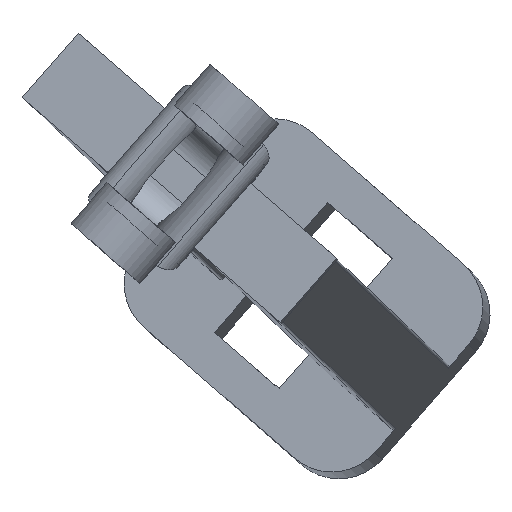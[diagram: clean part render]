
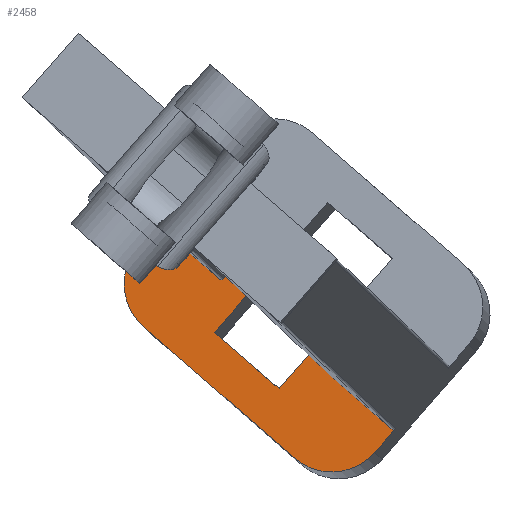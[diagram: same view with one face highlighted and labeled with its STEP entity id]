
A CAD part, top view. The second image highlights one B-rep face of the part: STEP entity #2458.
In plain terms, the highlighted planar face has unit normal (-0.036, 0.033, 0.999).
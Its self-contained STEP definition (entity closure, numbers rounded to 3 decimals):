
#14 = EDGE_CURVE ( 'NONE', #1218, #1404, #3377, .T. ) ;
#35 = ORIENTED_EDGE ( 'NONE', *, *, #588, .F. ) ;
#49 = LINE ( 'NONE', #1005, #1659 ) ;
#70 = EDGE_CURVE ( 'NONE', #3530, #2964, #2919, .T. ) ;
#84 = CARTESIAN_POINT ( 'NONE',  ( -79.305, 5.163, -659.587 ) ) ;
#112 = CARTESIAN_POINT ( 'NONE',  ( -38.999, -9.393, -657.648 ) ) ;
#115 = CARTESIAN_POINT ( 'NONE',  ( -48.085, -12.22, -657.885 ) ) ;
#128 = CARTESIAN_POINT ( 'NONE',  ( -52.419, 5.614, -658.625 ) ) ;
#212 = VERTEX_POINT ( 'NONE', #3600 ) ;
#220 = VECTOR ( 'NONE', #1322, 1000. ) ;
#251 = VERTEX_POINT ( 'NONE', #1214 ) ;
#268 = FACE_OUTER_BOUND ( 'NONE', #3099, .T. ) ;
#269 = EDGE_CURVE ( 'NONE', #3386, #1597, #1631, .T. ) ;
#289 = LINE ( 'NONE', #1499, #3160 ) ;
#303 = VECTOR ( 'NONE', #3076, 1000. ) ;
#312 = PLANE ( 'NONE',  #1201 ) ;
#334 = CARTESIAN_POINT ( 'NONE',  ( -45.415, -24.36, -657.392 ) ) ;
#348 = CARTESIAN_POINT ( 'NONE',  ( -38.846, -16.82, -657.4 ) ) ;
#371 = CARTESIAN_POINT ( 'NONE',  ( -28.031, -19.611, -656.916 ) ) ;
#386 = DIRECTION ( 'NONE',  ( 0.967, -0.251, 0.043 ) ) ;
#426 = VECTOR ( 'NONE', #1586, 1000. ) ;
#522 = CARTESIAN_POINT ( 'NONE',  ( -68.747, 16.522, -659.574 ) ) ;
#588 = EDGE_CURVE ( 'NONE', #251, #1106, #289, .T. ) ;
#593 = CARTESIAN_POINT ( 'NONE',  ( -56.185, 8.894, -658.869 ) ) ;
#600 = AXIS2_PLACEMENT_3D ( 'NONE', #2640, #2958, #1660 ) ;
#677 = LINE ( 'NONE', #115, #692 ) ;
#680 = VERTEX_POINT ( 'NONE', #2614 ) ;
#692 = VECTOR ( 'NONE', #3395, 1000. ) ;
#706 = VERTEX_POINT ( 'NONE', #2577 ) ;
#739 = EDGE_CURVE ( 'NONE', #706, #3795, #3176, .T. ) ;
#766 = DIRECTION ( 'NONE',  ( -0.657, -0.754, 0.001 ) ) ;
#769 = DIRECTION ( 'NONE',  ( 0.967, -0.251, 0.043 ) ) ;
#838 = VERTEX_POINT ( 'NONE', #3406 ) ;
#974 = DIRECTION ( 'NONE',  ( 0.036, -0.033, -0.999 ) ) ;
#998 = DIRECTION ( 'NONE',  ( -0.657, -0.754, 0.001 ) ) ;
#1005 = CARTESIAN_POINT ( 'NONE',  ( -48.631, 17.565, -658.877 ) ) ;
#1009 = DIRECTION ( 'NONE',  ( 0.967, -0.251, 0.043 ) ) ;
#1026 = ORIENTED_EDGE ( 'NONE', *, *, #2682, .T. ) ;
#1040 = VERTEX_POINT ( 'NONE', #3656 ) ;
#1053 = LINE ( 'NONE', #1584, #2036 ) ;
#1059 = VERTEX_POINT ( 'NONE', #334 ) ;
#1081 = ORIENTED_EDGE ( 'NONE', *, *, #70, .T. ) ;
#1106 = VERTEX_POINT ( 'NONE', #2380 ) ;
#1109 = DIRECTION ( 'NONE',  ( 0.036, -0.033, -0.999 ) ) ;
#1147 = EDGE_CURVE ( 'NONE', #1059, #2122, #2872, .T. ) ;
#1155 = EDGE_CURVE ( 'NONE', #1404, #3882, #677, .T. ) ;
#1170 = VECTOR ( 'NONE', #766, 1000. ) ;
#1183 = DIRECTION ( 'NONE',  ( -0.657, -0.754, 0.001 ) ) ;
#1201 = AXIS2_PLACEMENT_3D ( 'NONE', #3038, #3293, #1183 ) ;
#1214 = CARTESIAN_POINT ( 'NONE',  ( -72.737, 12.703, -659.594 ) ) ;
#1218 = VERTEX_POINT ( 'NONE', #1905 ) ;
#1256 = CARTESIAN_POINT ( 'NONE',  ( -38.999, -9.393, -657.648 ) ) ;
#1287 = DIRECTION ( 'NONE',  ( 0.753, -0.656, 0.049 ) ) ;
#1322 = DIRECTION ( 'NONE',  ( 0.657, 0.754, -0.001 ) ) ;
#1368 = DIRECTION ( 'NONE',  ( -0.753, 0.656, -0.049 ) ) ;
#1392 = LINE ( 'NONE', #128, #1170 ) ;
#1404 = VERTEX_POINT ( 'NONE', #3632 ) ;
#1499 = CARTESIAN_POINT ( 'NONE',  ( -59.599, 27.783, -659.609 ) ) ;
#1545 = ORIENTED_EDGE ( 'NONE', *, *, #14, .F. ) ;
#1584 = CARTESIAN_POINT ( 'NONE',  ( -28.407, -19.283, -656.94 ) ) ;
#1586 = DIRECTION ( 'NONE',  ( 0.753, -0.656, 0.049 ) ) ;
#1597 = VERTEX_POINT ( 'NONE', #3568 ) ;
#1631 = LINE ( 'NONE', #371, #2864 ) ;
#1652 = CARTESIAN_POINT ( 'NONE',  ( -27.702, -19.234, -656.916 ) ) ;
#1659 = VECTOR ( 'NONE', #2474, 1000. ) ;
#1660 = DIRECTION ( 'NONE',  ( 0.967, -0.251, 0.043 ) ) ;
#1673 = ORIENTED_EDGE ( 'NONE', *, *, #3022, .F. ) ;
#1733 = CARTESIAN_POINT ( 'NONE',  ( -38.622, -9.721, -657.623 ) ) ;
#1791 = DIRECTION ( 'NONE',  ( 0.967, -0.251, 0.043 ) ) ;
#1803 = ORIENTED_EDGE ( 'NONE', *, *, #2978, .T. ) ;
#1809 = DIRECTION ( 'NONE',  ( 0.657, 0.754, -0.001 ) ) ;
#1826 = AXIS2_PLACEMENT_3D ( 'NONE', #348, #2722, #1791 ) ;
#1881 = CARTESIAN_POINT ( 'NONE',  ( -59.382, -2.379, -658.617 ) ) ;
#1893 = DIRECTION ( 'NONE',  ( -0.036, 0.033, 0.999 ) ) ;
#1905 = CARTESIAN_POINT ( 'NONE',  ( -59.382, -2.379, -658.617 ) ) ;
#1930 = CIRCLE ( 'NONE', #2949, 0.5 ) ;
#1976 = ORIENTED_EDGE ( 'NONE', *, *, #2586, .T. ) ;
#2009 = VECTOR ( 'NONE', #1287, 1000. ) ;
#2036 = VECTOR ( 'NONE', #2240, 1000. ) ;
#2119 = CARTESIAN_POINT ( 'NONE',  ( -71.774, -1.397, -659.099 ) ) ;
#2122 = VERTEX_POINT ( 'NONE', #2119 ) ;
#2125 = AXIS2_PLACEMENT_3D ( 'NONE', #3108, #1893, #386 ) ;
#2165 = CARTESIAN_POINT ( 'NONE',  ( -41.122, -4.227, -657.893 ) ) ;
#2199 = CARTESIAN_POINT ( 'NONE',  ( -56.185, 8.894, -658.869 ) ) ;
#2220 = ORIENTED_EDGE ( 'NONE', *, *, #3226, .T. ) ;
#2240 = DIRECTION ( 'NONE',  ( -0.753, 0.656, -0.049 ) ) ;
#2272 = EDGE_CURVE ( 'NONE', #3882, #1040, #3376, .T. ) ;
#2293 = DIRECTION ( 'NONE',  ( 0.967, -0.251, 0.043 ) ) ;
#2321 = CIRCLE ( 'NONE', #600, 0.5 ) ;
#2347 = CIRCLE ( 'NONE', #1826, 10. ) ;
#2374 = EDGE_CURVE ( 'NONE', #838, #3530, #1053, .T. ) ;
#2380 = CARTESIAN_POINT ( 'NONE',  ( -69.124, 16.85, -659.598 ) ) ;
#2435 = ORIENTED_EDGE ( 'NONE', *, *, #1147, .F. ) ;
#2457 = EDGE_CURVE ( 'NONE', #1059, #1597, #2347, .T. ) ;
#2458 = ADVANCED_FACE ( 'NONE', ( #268 ), #312, .F. ) ;
#2474 = DIRECTION ( 'NONE',  ( -0.657, -0.754, 0.001 ) ) ;
#2523 = ORIENTED_EDGE ( 'NONE', *, *, #2272, .F. ) ;
#2530 = ORIENTED_EDGE ( 'NONE', *, *, #2457, .T. ) ;
#2577 = CARTESIAN_POINT ( 'NONE',  ( -58.532, 6.96, -658.891 ) ) ;
#2586 = EDGE_CURVE ( 'NONE', #2964, #1040, #3122, .T. ) ;
#2614 = CARTESIAN_POINT ( 'NONE',  ( -57.827, 7.009, -658.867 ) ) ;
#2640 = CARTESIAN_POINT ( 'NONE',  ( -28.079, -18.906, -656.941 ) ) ;
#2682 = EDGE_CURVE ( 'NONE', #3386, #838, #2321, .T. ) ;
#2706 = ORIENTED_EDGE ( 'NONE', *, *, #269, .F. ) ;
#2722 = DIRECTION ( 'NONE',  ( -0.036, 0.033, 0.999 ) ) ;
#2730 = EDGE_CURVE ( 'NONE', #3795, #1106, #3438, .T. ) ;
#2737 = ORIENTED_EDGE ( 'NONE', *, *, #2983, .T. ) ;
#2760 = VERTEX_POINT ( 'NONE', #3570 ) ;
#2864 = VECTOR ( 'NONE', #998, 1000. ) ;
#2866 = EDGE_CURVE ( 'NONE', #212, #2760, #3620, .T. ) ;
#2867 = VECTOR ( 'NONE', #3114, 1000. ) ;
#2872 = LINE ( 'NONE', #84, #2867 ) ;
#2890 = CIRCLE ( 'NONE', #2125, 10. ) ;
#2894 = CARTESIAN_POINT ( 'NONE',  ( -58.532, 6.96, -658.891 ) ) ;
#2919 = CIRCLE ( 'NONE', #3404, 0.5 ) ;
#2949 = AXIS2_PLACEMENT_3D ( 'NONE', #3670, #974, #1009 ) ;
#2958 = DIRECTION ( 'NONE',  ( 0.036, -0.033, -0.999 ) ) ;
#2964 = VERTEX_POINT ( 'NONE', #1256 ) ;
#2978 = EDGE_CURVE ( 'NONE', #680, #706, #1930, .T. ) ;
#2983 = EDGE_CURVE ( 'NONE', #251, #2122, #2890, .T. ) ;
#3022 = EDGE_CURVE ( 'NONE', #2760, #1218, #1392, .T. ) ;
#3036 = VECTOR ( 'NONE', #1368, 1000. ) ;
#3038 = CARTESIAN_POINT ( 'NONE',  ( -68.747, 16.522, -659.574 ) ) ;
#3076 = DIRECTION ( 'NONE',  ( 0.753, -0.656, 0.049 ) ) ;
#3099 = EDGE_LOOP ( 'NONE', ( #2220, #1803, #3690, #3536, #35, #2737, #2435, #2530, #2706, #1026, #3883, #1081, #1976, #2523, #3100, #1545, #1673, #3732 ) ) ;
#3100 = ORIENTED_EDGE ( 'NONE', *, *, #1155, .F. ) ;
#3108 = CARTESIAN_POINT ( 'NONE',  ( -65.205, 6.142, -659.106 ) ) ;
#3114 = DIRECTION ( 'NONE',  ( -0.753, 0.656, -0.049 ) ) ;
#3122 = LINE ( 'NONE', #112, #220 ) ;
#3160 = VECTOR ( 'NONE', #1809, 1000. ) ;
#3176 = LINE ( 'NONE', #2894, #3036 ) ;
#3192 = AXIS2_PLACEMENT_3D ( 'NONE', #522, #3251, #769 ) ;
#3226 = EDGE_CURVE ( 'NONE', #212, #680, #49, .T. ) ;
#3251 = DIRECTION ( 'NONE',  ( 0.036, -0.033, -0.999 ) ) ;
#3293 = DIRECTION ( 'NONE',  ( 0.036, -0.033, -0.999 ) ) ;
#3376 = LINE ( 'NONE', #593, #303 ) ;
#3377 = LINE ( 'NONE', #1881, #426 ) ;
#3386 = VERTEX_POINT ( 'NONE', #1652 ) ;
#3395 = DIRECTION ( 'NONE',  ( 0.657, 0.754, -0.001 ) ) ;
#3404 = AXIS2_PLACEMENT_3D ( 'NONE', #1733, #1109, #2293 ) ;
#3406 = CARTESIAN_POINT ( 'NONE',  ( -28.407, -19.283, -656.94 ) ) ;
#3438 = CIRCLE ( 'NONE', #3192, 0.5 ) ;
#3530 = VERTEX_POINT ( 'NONE', #3557 ) ;
#3536 = ORIENTED_EDGE ( 'NONE', *, *, #2730, .T. ) ;
#3557 = CARTESIAN_POINT ( 'NONE',  ( -38.951, -10.098, -657.623 ) ) ;
#3568 = CARTESIAN_POINT ( 'NONE',  ( -31.315, -23.381, -656.912 ) ) ;
#3570 = CARTESIAN_POINT ( 'NONE',  ( -52.419, 5.614, -658.625 ) ) ;
#3600 = CARTESIAN_POINT ( 'NONE',  ( -56.185, 8.894, -658.869 ) ) ;
#3620 = LINE ( 'NONE', #2199, #2009 ) ;
#3632 = CARTESIAN_POINT ( 'NONE',  ( -48.085, -12.22, -657.885 ) ) ;
#3656 = CARTESIAN_POINT ( 'NONE',  ( -37.357, -7.508, -657.649 ) ) ;
#3670 = CARTESIAN_POINT ( 'NONE',  ( -58.203, 7.337, -658.891 ) ) ;
#3690 = ORIENTED_EDGE ( 'NONE', *, *, #739, .T. ) ;
#3698 = CARTESIAN_POINT ( 'NONE',  ( -69.076, 16.145, -659.573 ) ) ;
#3732 = ORIENTED_EDGE ( 'NONE', *, *, #2866, .F. ) ;
#3795 = VERTEX_POINT ( 'NONE', #3698 ) ;
#3882 = VERTEX_POINT ( 'NONE', #2165 ) ;
#3883 = ORIENTED_EDGE ( 'NONE', *, *, #2374, .T. ) ;
